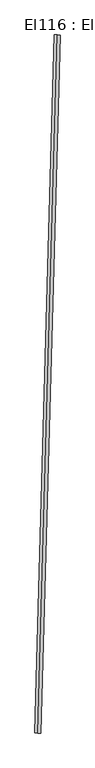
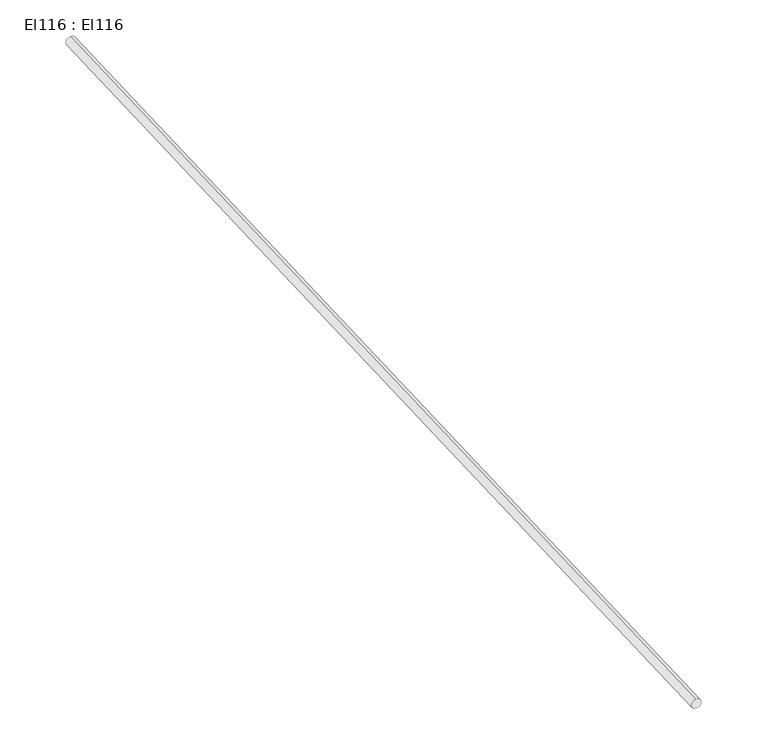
"""IFC4 building model written with IfcOpenShell, lengths in millimetres: cable carrier segment geometry, El116 : El116."""

from ifc_helpers import new_model, si_unit, point, frame, frame_2d, origin, place, context, project, spatial, circle_curve, trimmed, segment, composite_curve, outline, extrude, source, transform, mapped, element, save


def el116_el116_0c31d526(model_context):
    return source(origin(), model_context, "Body", "SweptSolid", [
        extrude(outline(composite_curve([segment(trimmed(circle_curve(frame_2d((0.0, -9.5)), 9.5), [point((0.0, -19.0))], [point((0.0, 0.0))], False, "CARTESIAN"), True, "CONTINUOUS"), segment(trimmed(circle_curve(frame_2d((0.0, -9.5)), 9.5), [point((0.0, 0.0))], [point((0.0, -19.0))], False, "CARTESIAN"), True, "CONTINUOUS")], self_intersect=False)), frame((31630.6411433, 9496.2293508, 2959.5), z_axis=(0.02746149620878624, 0.9996228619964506, 0.0), x_axis=(-0.9996228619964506, 0.02746149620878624, 0.0)), (0.0, 0.0, 1.0), 2225.58),
    ])


if __name__ == "__main__":
    model = new_model("IFC4")
    model_context = context("Model", 3, world=origin())
    ifc_project = project(units=[si_unit("LENGTHUNIT", "METRE", prefix="MILLI")], contexts=[model_context])
    site = spatial("IfcSite", under=ifc_project)
    building = spatial("IfcBuilding", under=site)
    placement = place(None, origin())
    el116_el116_shape = el116_el116_0c31d526(model_context)
    element("IfcCableCarrierSegment", 1, ObjectType="El116 : El116", at=placement, inside=building, context=model_context, shape_type="MappedRepresentation", body=[
        mapped(el116_el116_shape, transform((0.0, 0.0, 0.0), x_axis=(1.0, 0.0, 0.0), y_axis=(0.0, 1.0, 0.0), z_axis=(0.0, 0.0, 1.0))),
    ])
    save(model, "model.ifc")
